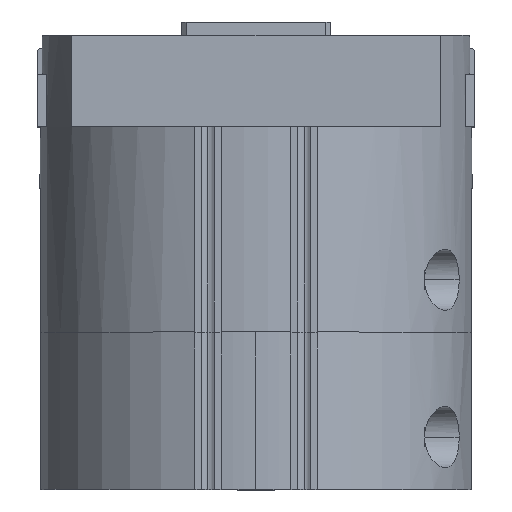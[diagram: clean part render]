
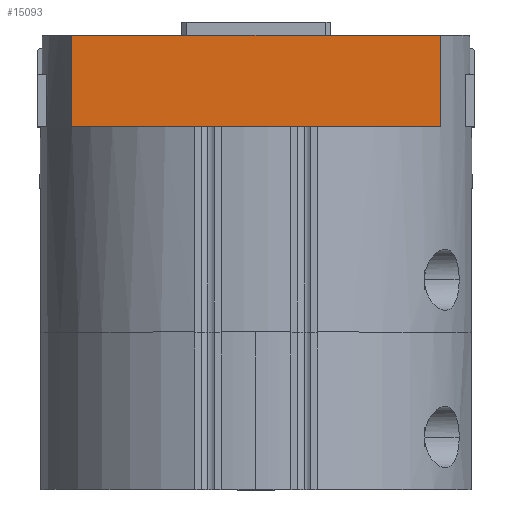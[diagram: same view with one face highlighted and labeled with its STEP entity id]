
A CAD part, top view. The second image highlights one B-rep face of the part: STEP entity #15093.
In plain terms, the highlighted planar face has unit normal (0, 0, 1).
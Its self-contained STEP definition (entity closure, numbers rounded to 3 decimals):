
#68 = DIRECTION ( 'NONE',  ( 1., 0., 0. ) ) ;
#116 = DIRECTION ( 'NONE',  ( 0., -1., 0. ) ) ;
#150 = DIRECTION ( 'NONE',  ( 0., 0., -1. ) ) ;
#2231 = CARTESIAN_POINT ( 'NONE',  ( -42.122, 68., 26. ) ) ;
#3182 = CARTESIAN_POINT ( 'NONE',  ( 42.122, 68., 26. ) ) ;
#9902 = LINE ( 'NONE', #78113, #69185 ) ;
#10127 = EDGE_CURVE ( 'NONE', #41740, #46288, #56405, .T. ) ;
#12081 = AXIS2_PLACEMENT_3D ( 'NONE', #75307, #150, #54294 ) ;
#12865 = EDGE_CURVE ( 'NONE', #20666, #46288, #46776, .T. ) ;
#15023 = CARTESIAN_POINT ( 'NONE',  ( 42.122, 68., 26. ) ) ;
#15093 = ADVANCED_FACE ( 'NONE', ( #38237 ), #92884, .F. ) ;
#20666 = VERTEX_POINT ( 'NONE', #52243 ) ;
#20779 = VERTEX_POINT ( 'NONE', #82831 ) ;
#22329 = ORIENTED_EDGE ( 'NONE', *, *, #12865, .T. ) ;
#34200 = LINE ( 'NONE', #2231, #93525 ) ;
#38237 = FACE_OUTER_BOUND ( 'NONE', #88104, .T. ) ;
#38304 = CARTESIAN_POINT ( 'NONE',  ( -49.5, 47., 26. ) ) ;
#41740 = VERTEX_POINT ( 'NONE', #3182 ) ;
#46288 = VERTEX_POINT ( 'NONE', #63205 ) ;
#46776 = LINE ( 'NONE', #38304, #72215 ) ;
#52243 = CARTESIAN_POINT ( 'NONE',  ( -42.122, 47., 26. ) ) ;
#53048 = ORIENTED_EDGE ( 'NONE', *, *, #10127, .F. ) ;
#54294 = DIRECTION ( 'NONE',  ( 0., 1., 0. ) ) ;
#56405 = LINE ( 'NONE', #15023, #95159 ) ;
#56706 = DIRECTION ( 'NONE',  ( 0., 1., 0. ) ) ;
#58107 = ORIENTED_EDGE ( 'NONE', *, *, #64066, .F. ) ;
#63205 = CARTESIAN_POINT ( 'NONE',  ( 42.122, 47., 26. ) ) ;
#64066 = EDGE_CURVE ( 'NONE', #20779, #41740, #9902, .T. ) ;
#66310 = EDGE_CURVE ( 'NONE', #20666, #20779, #34200, .T. ) ;
#69185 = VECTOR ( 'NONE', #85941, 1000. ) ;
#69781 = ORIENTED_EDGE ( 'NONE', *, *, #66310, .F. ) ;
#72215 = VECTOR ( 'NONE', #68, 1000. ) ;
#75307 = CARTESIAN_POINT ( 'NONE',  ( -49.5, 72.957, 26. ) ) ;
#78113 = CARTESIAN_POINT ( 'NONE',  ( 0., 68., 26. ) ) ;
#82831 = CARTESIAN_POINT ( 'NONE',  ( -42.122, 68., 26. ) ) ;
#85941 = DIRECTION ( 'NONE',  ( 1., 0., 0. ) ) ;
#88104 = EDGE_LOOP ( 'NONE', ( #69781, #22329, #53048, #58107 ) ) ;
#92884 = PLANE ( 'NONE',  #12081 ) ;
#93525 = VECTOR ( 'NONE', #56706, 1000. ) ;
#95159 = VECTOR ( 'NONE', #116, 1000. ) ;
